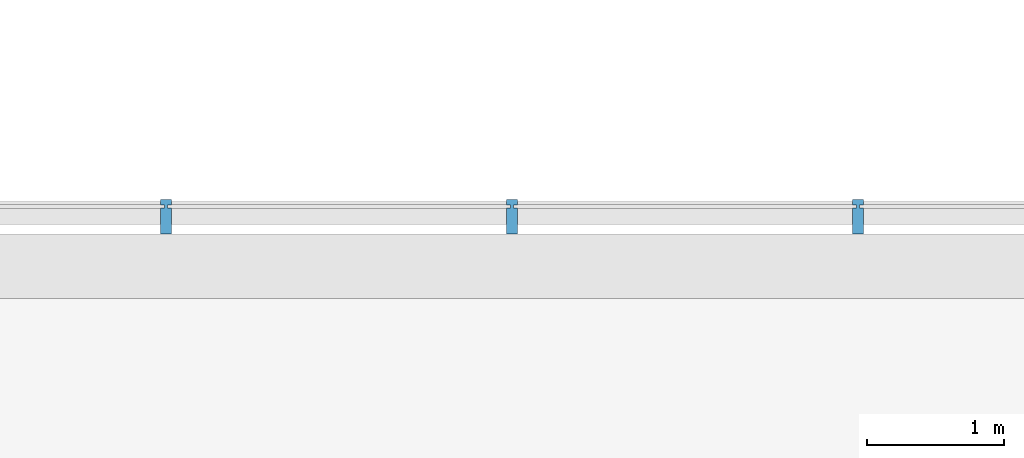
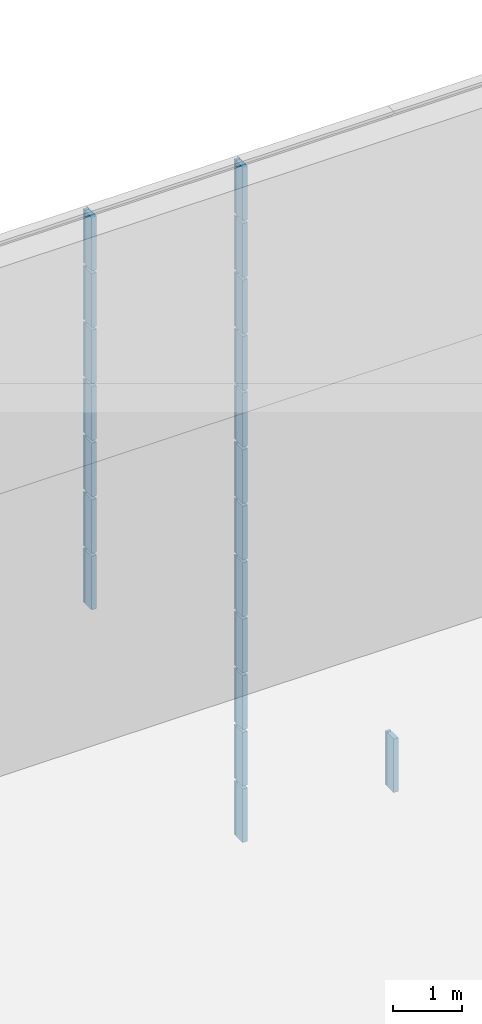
# One storey, part 87 of 105: 20 building element parts, 4 elements without a shape of their own.
"""IFC4 building model written with IfcOpenShell, lengths in millimetres."""

from ifc_helpers import new_model, entity, si_unit, converted_unit, derived_unit, direction, frame, origin_with_axes, place, context, subcontext, project, spatial, triangles, material, element, aggregate, save


model = new_model("IFC4")

# Units and contexts
model_context = context("Model", 3, precision=1e-05, world=origin_with_axes(), true_north=direction((0.0, 1.0)))
body_context = subcontext(model_context, "Body", "Model", "MODEL_VIEW")
ifc_project = project(units=[si_unit("LENGTHUNIT", "METRE", prefix="MILLI"), si_unit("AREAUNIT", "SQUARE_METRE"), si_unit("VOLUMEUNIT", "CUBIC_METRE"), converted_unit("PLANEANGLEUNIT", "DEGREE", entity("IfcLengthMeasure", 0.017453), si_unit("PLANEANGLEUNIT", "RADIAN"), dimensions=[0, 0, 0, 0, 0, 0, 0]), si_unit("SOLIDANGLEUNIT", "STERADIAN"), si_unit("MASSUNIT", "GRAM"), si_unit("TIMEUNIT", "SECOND"), si_unit("THERMODYNAMICTEMPERATUREUNIT", "DEGREE_CELSIUS"), si_unit("LUMINOUSINTENSITYUNIT", "LUMEN"), si_unit("POWERUNIT", "WATT"), derived_unit("THERMALTRANSMITTANCEUNIT", [(si_unit("POWERUNIT", "WATT"), 1), (si_unit("THERMODYNAMICTEMPERATUREUNIT", "KELVIN"), -1), (si_unit("AREAUNIT", "SQUARE_METRE"), -1)])], contexts=[model_context])

# Site, building, storey
site_placement = place(None, origin_with_axes())
site = spatial("IfcSite", under=ifc_project, at=site_placement, Name="Default Site", CompositionType="ELEMENT")
building_placement = place(site_placement, origin_with_axes())
building = spatial("IfcBuilding", under=site, at=building_placement, Name="Default Building", CompositionType="ELEMENT")
storey_placement = place(building_placement, origin_with_axes())
storey = spatial("IfcBuildingStorey", under=building, at=storey_placement, Name="OG - Story", CompositionType="ELEMENT", Elevation=0.0)

# Curtain wall, building element parts
curtain_wall_1_placement = place(storey_placement, origin_with_axes())
curtain_wall_1 = element("IfcCurtainWall", 1, at=curtain_wall_1_placement, inside=storey, Name="Fassade-004", PredefinedType="NOTDEFINED")
ifc_material = material(Name="Blech")
building_element_part_1_placement = place(curtain_wall_1_placement, frame((33014.549222, -4389.262838, 0.0), z_axis=(0.0, 0.0, 1.0), x_axis=(1.0, 0.0, 0.0)))
building_element_part_1 = element("IfcBuildingElementPart", 2, at=building_element_part_1_placement, material=ifc_material, Name="Blech", PredefinedType="NOTDEFINED", context=body_context, shape_type="Tessellation", body=[
    triangles([(11408.421, -9.999, 975.0), (11408.421, -199.999, 975.0), (11378.421, -9.999, 975.0), (11358.421, -9.999, 975.0), (11378.421, 10.0, 975.0), (11408.421, 50.0, 975.0), (11408.421, 10.0, 975.0), (11328.421, -199.999, 975.0), (11328.421, -9.999, 975.0), (11358.421, 10.0, 975.0), (11328.421, 10.0, 975.0), (11328.421, 50.0, 975.0), (11378.421, -9.999, 25.0), (11378.421, 10.0, 25.0), (11408.421, 10.0, 25.0), (11408.421, 50.0, 25.0), (11328.421, 50.0, 25.0), (11328.421, 10.0, 25.0), (11358.421, 10.0, 25.0), (11358.421, -9.999, 25.0), (11328.421, -9.999, 25.0), (11328.421, -199.999, 25.0), (11408.421, -199.999, 25.0), (11408.421, -9.999, 25.0)], [[1, 2, 3], [3, 2, 4], [3, 4, 5], [5, 4, 6], [5, 6, 7], [8, 9, 4], [8, 4, 2], [6, 4, 10], [6, 10, 11], [6, 11, 12], [3, 13, 14], [3, 14, 5], [5, 14, 15], [5, 15, 7], [15, 16, 6], [15, 6, 7], [12, 6, 16], [12, 16, 17], [18, 11, 12], [18, 12, 17], [11, 18, 19], [11, 19, 10], [4, 10, 19], [4, 19, 20], [9, 4, 20], [9, 20, 21], [9, 21, 22], [9, 22, 8], [2, 8, 22], [2, 22, 23], [1, 2, 23], [1, 23, 24], [1, 24, 13], [1, 13, 3], [15, 16, 14], [14, 16, 19], [14, 19, 13], [13, 19, 23], [13, 23, 24], [17, 18, 19], [17, 19, 16], [23, 19, 20], [23, 20, 21], [23, 21, 22]], closed=False),
])
building_element_part_2_placement = place(curtain_wall_1_placement, frame((33014.549222, -4389.262838, 0.0), z_axis=(0.0, 0.0, 1.0), x_axis=(1.0, 0.0, 0.0)))
building_element_part_2 = element("IfcBuildingElementPart", 3, at=building_element_part_2_placement, material=ifc_material, Name="Blech", PredefinedType="NOTDEFINED", context=body_context, shape_type="Tessellation", body=[
    triangles([(13934.737, -9.999, 975.0), (13934.737, -199.999, 975.0), (13904.737, -9.999, 975.0), (13884.737, -9.999, 975.0), (13904.737, 10.0, 975.0), (13934.737, 50.0, 975.0), (13934.737, 10.0, 975.0), (13854.737, -199.999, 975.0), (13854.737, -9.999, 975.0), (13884.737, 10.0, 975.0), (13854.737, 10.0, 975.0), (13854.737, 50.0, 975.0), (13904.737, -9.999, 25.0), (13904.737, 10.0, 25.0), (13934.737, 10.0, 25.0), (13934.737, 50.0, 25.0), (13854.737, 50.0, 25.0), (13854.737, 10.0, 25.0), (13884.737, 10.0, 25.0), (13884.737, -9.999, 25.0), (13854.737, -9.999, 25.0), (13854.737, -199.999, 25.0), (13934.737, -199.999, 25.0), (13934.737, -9.999, 25.0)], [[1, 2, 3], [3, 2, 4], [3, 4, 5], [5, 4, 6], [5, 6, 7], [8, 9, 4], [8, 4, 2], [6, 4, 10], [6, 10, 11], [6, 11, 12], [3, 13, 14], [3, 14, 5], [5, 14, 15], [5, 15, 7], [15, 16, 6], [15, 6, 7], [12, 6, 16], [12, 16, 17], [18, 11, 12], [18, 12, 17], [11, 18, 19], [11, 19, 10], [4, 10, 19], [4, 19, 20], [9, 4, 20], [9, 20, 21], [9, 21, 22], [9, 22, 8], [2, 8, 22], [2, 22, 23], [1, 2, 23], [1, 23, 24], [1, 24, 13], [1, 13, 3], [15, 16, 14], [14, 16, 19], [14, 19, 13], [13, 19, 23], [13, 23, 24], [17, 18, 19], [17, 19, 16], [23, 19, 20], [23, 20, 21], [23, 21, 22]], closed=False),
])
building_element_part_3_placement = place(curtain_wall_1_placement, frame((33014.549222, -4389.262838, 0.0), z_axis=(0.0, 0.0, 1.0), x_axis=(1.0, 0.0, 0.0)))
building_element_part_3 = element("IfcBuildingElementPart", 4, at=building_element_part_3_placement, material=ifc_material, Name="Blech", PredefinedType="NOTDEFINED", context=body_context, shape_type="Tessellation", body=[
    triangles([(11408.421, -9.999, 1975.0), (11408.421, -199.999, 1975.0), (11378.421, -9.999, 1975.0), (11358.421, -9.999, 1975.0), (11378.421, 10.0, 1975.0), (11408.421, 50.0, 1975.0), (11408.421, 10.0, 1975.0), (11328.421, -199.999, 1975.0), (11328.421, -9.999, 1975.0), (11358.421, 10.0, 1975.0), (11328.421, 10.0, 1975.0), (11328.421, 50.0, 1975.0), (11378.421, -9.999, 1025.0), (11378.421, 10.0, 1025.0), (11408.421, 10.0, 1025.0), (11408.421, 50.0, 1025.0), (11328.421, 50.0, 1025.0), (11328.421, 10.0, 1025.0), (11358.421, 10.0, 1025.0), (11358.421, -9.999, 1025.0), (11328.421, -9.999, 1025.0), (11328.421, -199.999, 1025.0), (11408.421, -199.999, 1025.0), (11408.421, -9.999, 1025.0)], [[1, 2, 3], [3, 2, 4], [3, 4, 5], [5, 4, 6], [5, 6, 7], [8, 9, 4], [8, 4, 2], [6, 4, 10], [6, 10, 11], [6, 11, 12], [3, 13, 14], [3, 14, 5], [5, 14, 15], [5, 15, 7], [15, 16, 6], [15, 6, 7], [12, 6, 16], [12, 16, 17], [18, 11, 12], [18, 12, 17], [11, 18, 19], [11, 19, 10], [4, 10, 19], [4, 19, 20], [9, 4, 20], [9, 20, 21], [9, 21, 22], [9, 22, 8], [2, 8, 22], [2, 22, 23], [1, 2, 23], [1, 23, 24], [1, 24, 13], [1, 13, 3], [15, 16, 14], [14, 16, 19], [14, 19, 13], [13, 19, 23], [13, 23, 24], [17, 18, 19], [17, 19, 16], [23, 19, 20], [23, 20, 21], [23, 21, 22]], closed=False),
])
building_element_part_4_placement = place(curtain_wall_1_placement, frame((33014.549222, -4389.262838, 0.0), z_axis=(0.0, 0.0, 1.0), x_axis=(1.0, 0.0, 0.0)))
building_element_part_4 = element("IfcBuildingElementPart", 5, at=building_element_part_4_placement, material=ifc_material, Name="Blech", PredefinedType="NOTDEFINED", context=body_context, shape_type="Tessellation", body=[
    triangles([(11408.421, -9.999, 2975.0), (11408.421, -199.999, 2975.0), (11378.421, -9.999, 2975.0), (11358.421, -9.999, 2975.0), (11378.421, 10.0, 2975.0), (11408.421, 50.0, 2975.0), (11408.421, 10.0, 2975.0), (11328.421, -199.999, 2975.0), (11328.421, -9.999, 2975.0), (11358.421, 10.0, 2975.0), (11328.421, 10.0, 2975.0), (11328.421, 50.0, 2975.0), (11378.421, -9.999, 2025.0), (11378.421, 10.0, 2025.0), (11408.421, 10.0, 2025.0), (11408.421, 50.0, 2025.0), (11328.421, 50.0, 2025.0), (11328.421, 10.0, 2025.0), (11358.421, 10.0, 2025.0), (11358.421, -9.999, 2025.0), (11328.421, -9.999, 2025.0), (11328.421, -199.999, 2025.0), (11408.421, -199.999, 2025.0), (11408.421, -9.999, 2025.0)], [[1, 2, 3], [3, 2, 4], [3, 4, 5], [5, 4, 6], [5, 6, 7], [8, 9, 4], [8, 4, 2], [6, 4, 10], [6, 10, 11], [6, 11, 12], [3, 13, 14], [3, 14, 5], [5, 14, 15], [5, 15, 7], [15, 16, 6], [15, 6, 7], [12, 6, 16], [12, 16, 17], [18, 11, 12], [18, 12, 17], [11, 18, 19], [11, 19, 10], [4, 10, 19], [4, 19, 20], [9, 4, 20], [9, 20, 21], [9, 21, 22], [9, 22, 8], [2, 8, 22], [2, 22, 23], [1, 2, 23], [1, 23, 24], [1, 24, 13], [1, 13, 3], [15, 16, 14], [14, 16, 19], [14, 19, 13], [13, 19, 23], [13, 23, 24], [17, 18, 19], [17, 19, 16], [23, 19, 20], [23, 20, 21], [23, 21, 22]], closed=False),
])
aggregate(curtain_wall_1, [building_element_part_1, building_element_part_2, building_element_part_3, building_element_part_4])

curtain_wall_2_placement = place(storey_placement, origin_with_axes())
curtain_wall_2 = element("IfcCurtainWall", 6, at=curtain_wall_2_placement, inside=storey, Name="Fassade-004", PredefinedType="NOTDEFINED")
building_element_part_5_placement = place(curtain_wall_2_placement, frame((33014.549222, -4389.262838, 3000.0), z_axis=(0.0, 0.0, 1.0), x_axis=(1.0, 0.0, 0.0)))
building_element_part_5 = element("IfcBuildingElementPart", 7, at=building_element_part_5_placement, material=ifc_material, Name="Blech", PredefinedType="NOTDEFINED", context=body_context, shape_type="Tessellation", body=[
    triangles([(11408.421, -9.999, 975.0), (11408.421, -199.999, 975.0), (11378.421, -9.999, 975.0), (11358.421, -9.999, 975.0), (11378.421, 10.0, 975.0), (11408.421, 50.0, 975.0), (11408.421, 10.0, 975.0), (11328.421, -199.999, 975.0), (11328.421, -9.999, 975.0), (11358.421, 10.0, 975.0), (11328.421, 10.0, 975.0), (11328.421, 50.0, 975.0), (11378.421, -9.999, 25.0), (11378.421, 10.0, 25.0), (11408.421, 10.0, 25.0), (11408.421, 50.0, 25.0), (11328.421, 50.0, 25.0), (11328.421, 10.0, 25.0), (11358.421, 10.0, 25.0), (11358.421, -9.999, 25.0), (11328.421, -9.999, 25.0), (11328.421, -199.999, 25.0), (11408.421, -199.999, 25.0), (11408.421, -9.999, 25.0)], [[1, 2, 3], [3, 2, 4], [3, 4, 5], [5, 4, 6], [5, 6, 7], [8, 9, 4], [8, 4, 2], [6, 4, 10], [6, 10, 11], [6, 11, 12], [3, 13, 14], [3, 14, 5], [5, 14, 15], [5, 15, 7], [15, 16, 6], [15, 6, 7], [12, 6, 16], [12, 16, 17], [18, 11, 12], [18, 12, 17], [11, 18, 19], [11, 19, 10], [4, 10, 19], [4, 19, 20], [9, 4, 20], [9, 20, 21], [9, 21, 22], [9, 22, 8], [2, 8, 22], [2, 22, 23], [1, 2, 23], [1, 23, 24], [1, 24, 13], [1, 13, 3], [15, 16, 14], [14, 16, 19], [14, 19, 13], [13, 19, 23], [13, 23, 24], [17, 18, 19], [17, 19, 16], [23, 19, 20], [23, 20, 21], [23, 21, 22]], closed=False),
])
building_element_part_6_placement = place(curtain_wall_2_placement, frame((33014.549222, -4389.262838, 3000.0), z_axis=(0.0, 0.0, 1.0), x_axis=(1.0, 0.0, 0.0)))
building_element_part_6 = element("IfcBuildingElementPart", 8, at=building_element_part_6_placement, material=ifc_material, Name="Blech", PredefinedType="NOTDEFINED", context=body_context, shape_type="Tessellation", body=[
    triangles([(11408.421, -9.999, 1975.0), (11408.421, -199.999, 1975.0), (11378.421, -9.999, 1975.0), (11358.421, -9.999, 1975.0), (11378.421, 10.0, 1975.0), (11408.421, 50.0, 1975.0), (11408.421, 10.0, 1975.0), (11328.421, -199.999, 1975.0), (11328.421, -9.999, 1975.0), (11358.421, 10.0, 1975.0), (11328.421, 10.0, 1975.0), (11328.421, 50.0, 1975.0), (11378.421, -9.999, 1025.0), (11378.421, 10.0, 1025.0), (11408.421, 10.0, 1025.0), (11408.421, 50.0, 1025.0), (11328.421, 50.0, 1025.0), (11328.421, 10.0, 1025.0), (11358.421, 10.0, 1025.0), (11358.421, -9.999, 1025.0), (11328.421, -9.999, 1025.0), (11328.421, -199.999, 1025.0), (11408.421, -199.999, 1025.0), (11408.421, -9.999, 1025.0)], [[1, 2, 3], [3, 2, 4], [3, 4, 5], [5, 4, 6], [5, 6, 7], [8, 9, 4], [8, 4, 2], [6, 4, 10], [6, 10, 11], [6, 11, 12], [3, 13, 14], [3, 14, 5], [5, 14, 15], [5, 15, 7], [15, 16, 6], [15, 6, 7], [12, 6, 16], [12, 16, 17], [18, 11, 12], [18, 12, 17], [11, 18, 19], [11, 19, 10], [4, 10, 19], [4, 19, 20], [9, 4, 20], [9, 20, 21], [9, 21, 22], [9, 22, 8], [2, 8, 22], [2, 22, 23], [1, 2, 23], [1, 23, 24], [1, 24, 13], [1, 13, 3], [15, 16, 14], [14, 16, 19], [14, 19, 13], [13, 19, 23], [13, 23, 24], [17, 18, 19], [17, 19, 16], [23, 19, 20], [23, 20, 21], [23, 21, 22]], closed=False),
])
building_element_part_7_placement = place(curtain_wall_2_placement, frame((33014.549222, -4389.262838, 3000.0), z_axis=(0.0, 0.0, 1.0), x_axis=(1.0, 0.0, 0.0)))
building_element_part_7 = element("IfcBuildingElementPart", 9, at=building_element_part_7_placement, material=ifc_material, Name="Blech", PredefinedType="NOTDEFINED", context=body_context, shape_type="Tessellation", body=[
    triangles([(8882.105, -9.999, 2975.0), (8882.105, -199.999, 2975.0), (8852.105, -9.999, 2975.0), (8832.105, -9.999, 2975.0), (8852.105, 10.0, 2975.0), (8882.105, 50.0, 2975.0), (8882.105, 10.0, 2975.0), (8802.105, -199.999, 2975.0), (8802.105, -9.999, 2975.0), (8832.105, 10.0, 2975.0), (8802.105, 10.0, 2975.0), (8802.105, 50.0, 2975.0), (8852.105, -9.999, 2025.0), (8852.105, 10.0, 2025.0), (8882.105, 10.0, 2025.0), (8882.105, 50.0, 2025.0), (8802.105, 50.0, 2025.0), (8802.105, 10.0, 2025.0), (8832.105, 10.0, 2025.0), (8832.105, -9.999, 2025.0), (8802.105, -9.999, 2025.0), (8802.105, -199.999, 2025.0), (8882.105, -199.999, 2025.0), (8882.105, -9.999, 2025.0)], [[1, 2, 3], [3, 2, 4], [3, 4, 5], [5, 4, 6], [5, 6, 7], [8, 9, 4], [8, 4, 2], [6, 4, 10], [6, 10, 11], [6, 11, 12], [3, 13, 14], [3, 14, 5], [5, 14, 15], [5, 15, 7], [15, 16, 6], [15, 6, 7], [12, 6, 16], [12, 16, 17], [18, 11, 12], [18, 12, 17], [11, 18, 19], [11, 19, 10], [4, 10, 19], [4, 19, 20], [9, 4, 20], [9, 20, 21], [9, 21, 22], [9, 22, 8], [2, 8, 22], [2, 22, 23], [1, 2, 23], [1, 23, 24], [1, 24, 13], [1, 13, 3], [15, 16, 14], [14, 16, 19], [14, 19, 13], [13, 19, 23], [13, 23, 24], [17, 18, 19], [17, 19, 16], [23, 19, 20], [23, 20, 21], [23, 21, 22]], closed=False),
])
building_element_part_8_placement = place(curtain_wall_2_placement, frame((33014.549222, -4389.262838, 3000.0), z_axis=(0.0, 0.0, 1.0), x_axis=(1.0, 0.0, 0.0)))
building_element_part_8 = element("IfcBuildingElementPart", 10, at=building_element_part_8_placement, material=ifc_material, Name="Blech", PredefinedType="NOTDEFINED", context=body_context, shape_type="Tessellation", body=[
    triangles([(11408.421, -9.999, 2975.0), (11408.421, -199.999, 2975.0), (11378.421, -9.999, 2975.0), (11358.421, -9.999, 2975.0), (11378.421, 10.0, 2975.0), (11408.421, 50.0, 2975.0), (11408.421, 10.0, 2975.0), (11328.421, -199.999, 2975.0), (11328.421, -9.999, 2975.0), (11358.421, 10.0, 2975.0), (11328.421, 10.0, 2975.0), (11328.421, 50.0, 2975.0), (11378.421, -9.999, 2025.0), (11378.421, 10.0, 2025.0), (11408.421, 10.0, 2025.0), (11408.421, 50.0, 2025.0), (11328.421, 50.0, 2025.0), (11328.421, 10.0, 2025.0), (11358.421, 10.0, 2025.0), (11358.421, -9.999, 2025.0), (11328.421, -9.999, 2025.0), (11328.421, -199.999, 2025.0), (11408.421, -199.999, 2025.0), (11408.421, -9.999, 2025.0)], [[1, 2, 3], [3, 2, 4], [3, 4, 5], [5, 4, 6], [5, 6, 7], [8, 9, 4], [8, 4, 2], [6, 4, 10], [6, 10, 11], [6, 11, 12], [3, 13, 14], [3, 14, 5], [5, 14, 15], [5, 15, 7], [15, 16, 6], [15, 6, 7], [12, 6, 16], [12, 16, 17], [18, 11, 12], [18, 12, 17], [11, 18, 19], [11, 19, 10], [4, 10, 19], [4, 19, 20], [9, 4, 20], [9, 20, 21], [9, 21, 22], [9, 22, 8], [2, 8, 22], [2, 22, 23], [1, 2, 23], [1, 23, 24], [1, 24, 13], [1, 13, 3], [15, 16, 14], [14, 16, 19], [14, 19, 13], [13, 19, 23], [13, 23, 24], [17, 18, 19], [17, 19, 16], [23, 19, 20], [23, 20, 21], [23, 21, 22]], closed=False),
])
aggregate(curtain_wall_2, [building_element_part_5, building_element_part_6, building_element_part_7, building_element_part_8])

curtain_wall_3_placement = place(storey_placement, origin_with_axes())
curtain_wall_3 = element("IfcCurtainWall", 11, at=curtain_wall_3_placement, inside=storey, Name="Fassade-004", PredefinedType="NOTDEFINED")
building_element_part_9_placement = place(curtain_wall_3_placement, frame((33014.549222, -4389.262838, 6000.0), z_axis=(0.0, 0.0, 1.0), x_axis=(1.0, 0.0, 0.0)))
building_element_part_9 = element("IfcBuildingElementPart", 12, at=building_element_part_9_placement, material=ifc_material, Name="Blech", PredefinedType="NOTDEFINED", context=body_context, shape_type="Tessellation", body=[
    triangles([(8882.105, -9.999, 975.0), (8882.105, -199.999, 975.0), (8852.105, -9.999, 975.0), (8832.105, -9.999, 975.0), (8852.105, 10.0, 975.0), (8882.105, 50.0, 975.0), (8882.105, 10.0, 975.0), (8802.105, -199.999, 975.0), (8802.105, -9.999, 975.0), (8832.105, 10.0, 975.0), (8802.105, 10.0, 975.0), (8802.105, 50.0, 975.0), (8852.105, -9.999, 25.0), (8852.105, 10.0, 25.0), (8882.105, 10.0, 25.0), (8882.105, 50.0, 25.0), (8802.105, 50.0, 25.0), (8802.105, 10.0, 25.0), (8832.105, 10.0, 25.0), (8832.105, -9.999, 25.0), (8802.105, -9.999, 25.0), (8802.105, -199.999, 25.0), (8882.105, -199.999, 25.0), (8882.105, -9.999, 25.0)], [[1, 2, 3], [3, 2, 4], [3, 4, 5], [5, 4, 6], [5, 6, 7], [8, 9, 4], [8, 4, 2], [6, 4, 10], [6, 10, 11], [6, 11, 12], [3, 13, 14], [3, 14, 5], [5, 14, 15], [5, 15, 7], [15, 16, 6], [15, 6, 7], [12, 6, 16], [12, 16, 17], [18, 11, 12], [18, 12, 17], [11, 18, 19], [11, 19, 10], [4, 10, 19], [4, 19, 20], [9, 4, 20], [9, 20, 21], [9, 21, 22], [9, 22, 8], [2, 8, 22], [2, 22, 23], [1, 2, 23], [1, 23, 24], [1, 24, 13], [1, 13, 3], [15, 16, 14], [14, 16, 19], [14, 19, 13], [13, 19, 23], [13, 23, 24], [17, 18, 19], [17, 19, 16], [23, 19, 20], [23, 20, 21], [23, 21, 22]], closed=False),
])
building_element_part_10_placement = place(curtain_wall_3_placement, frame((33014.549222, -4389.262838, 6000.0), z_axis=(0.0, 0.0, 1.0), x_axis=(1.0, 0.0, 0.0)))
building_element_part_10 = element("IfcBuildingElementPart", 13, at=building_element_part_10_placement, material=ifc_material, Name="Blech", PredefinedType="NOTDEFINED", context=body_context, shape_type="Tessellation", body=[
    triangles([(11408.421, -9.999, 975.0), (11408.421, -199.999, 975.0), (11378.421, -9.999, 975.0), (11358.421, -9.999, 975.0), (11378.421, 10.0, 975.0), (11408.421, 50.0, 975.0), (11408.421, 10.0, 975.0), (11328.421, -199.999, 975.0), (11328.421, -9.999, 975.0), (11358.421, 10.0, 975.0), (11328.421, 10.0, 975.0), (11328.421, 50.0, 975.0), (11378.421, -9.999, 25.0), (11378.421, 10.0, 25.0), (11408.421, 10.0, 25.0), (11408.421, 50.0, 25.0), (11328.421, 50.0, 25.0), (11328.421, 10.0, 25.0), (11358.421, 10.0, 25.0), (11358.421, -9.999, 25.0), (11328.421, -9.999, 25.0), (11328.421, -199.999, 25.0), (11408.421, -199.999, 25.0), (11408.421, -9.999, 25.0)], [[1, 2, 3], [3, 2, 4], [3, 4, 5], [5, 4, 6], [5, 6, 7], [8, 9, 4], [8, 4, 2], [6, 4, 10], [6, 10, 11], [6, 11, 12], [3, 13, 14], [3, 14, 5], [5, 14, 15], [5, 15, 7], [15, 16, 6], [15, 6, 7], [12, 6, 16], [12, 16, 17], [18, 11, 12], [18, 12, 17], [11, 18, 19], [11, 19, 10], [4, 10, 19], [4, 19, 20], [9, 4, 20], [9, 20, 21], [9, 21, 22], [9, 22, 8], [2, 8, 22], [2, 22, 23], [1, 2, 23], [1, 23, 24], [1, 24, 13], [1, 13, 3], [15, 16, 14], [14, 16, 19], [14, 19, 13], [13, 19, 23], [13, 23, 24], [17, 18, 19], [17, 19, 16], [23, 19, 20], [23, 20, 21], [23, 21, 22]], closed=False),
])
building_element_part_11_placement = place(curtain_wall_3_placement, frame((33014.549222, -4389.262838, 6000.0), z_axis=(0.0, 0.0, 1.0), x_axis=(1.0, 0.0, 0.0)))
building_element_part_11 = element("IfcBuildingElementPart", 14, at=building_element_part_11_placement, material=ifc_material, Name="Blech", PredefinedType="NOTDEFINED", context=body_context, shape_type="Tessellation", body=[
    triangles([(8882.105, -9.999, 1975.0), (8882.105, -199.999, 1975.0), (8852.105, -9.999, 1975.0), (8832.105, -9.999, 1975.0), (8852.105, 10.0, 1975.0), (8882.105, 50.0, 1975.0), (8882.105, 10.0, 1975.0), (8802.105, -199.999, 1975.0), (8802.105, -9.999, 1975.0), (8832.105, 10.0, 1975.0), (8802.105, 10.0, 1975.0), (8802.105, 50.0, 1975.0), (8852.105, -9.999, 1025.0), (8852.105, 10.0, 1025.0), (8882.105, 10.0, 1025.0), (8882.105, 50.0, 1025.0), (8802.105, 50.0, 1025.0), (8802.105, 10.0, 1025.0), (8832.105, 10.0, 1025.0), (8832.105, -9.999, 1025.0), (8802.105, -9.999, 1025.0), (8802.105, -199.999, 1025.0), (8882.105, -199.999, 1025.0), (8882.105, -9.999, 1025.0)], [[1, 2, 3], [3, 2, 4], [3, 4, 5], [5, 4, 6], [5, 6, 7], [8, 9, 4], [8, 4, 2], [6, 4, 10], [6, 10, 11], [6, 11, 12], [3, 13, 14], [3, 14, 5], [5, 14, 15], [5, 15, 7], [15, 16, 6], [15, 6, 7], [12, 6, 16], [12, 16, 17], [18, 11, 12], [18, 12, 17], [11, 18, 19], [11, 19, 10], [4, 10, 19], [4, 19, 20], [9, 4, 20], [9, 20, 21], [9, 21, 22], [9, 22, 8], [2, 8, 22], [2, 22, 23], [1, 2, 23], [1, 23, 24], [1, 24, 13], [1, 13, 3], [15, 16, 14], [14, 16, 19], [14, 19, 13], [13, 19, 23], [13, 23, 24], [17, 18, 19], [17, 19, 16], [23, 19, 20], [23, 20, 21], [23, 21, 22]], closed=False),
])
building_element_part_12_placement = place(curtain_wall_3_placement, frame((33014.549222, -4389.262838, 6000.0), z_axis=(0.0, 0.0, 1.0), x_axis=(1.0, 0.0, 0.0)))
building_element_part_12 = element("IfcBuildingElementPart", 15, at=building_element_part_12_placement, material=ifc_material, Name="Blech", PredefinedType="NOTDEFINED", context=body_context, shape_type="Tessellation", body=[
    triangles([(11408.421, -9.999, 1975.0), (11408.421, -199.999, 1975.0), (11378.421, -9.999, 1975.0), (11358.421, -9.999, 1975.0), (11378.421, 10.0, 1975.0), (11408.421, 50.0, 1975.0), (11408.421, 10.0, 1975.0), (11328.421, -199.999, 1975.0), (11328.421, -9.999, 1975.0), (11358.421, 10.0, 1975.0), (11328.421, 10.0, 1975.0), (11328.421, 50.0, 1975.0), (11378.421, -9.999, 1025.0), (11378.421, 10.0, 1025.0), (11408.421, 10.0, 1025.0), (11408.421, 50.0, 1025.0), (11328.421, 50.0, 1025.0), (11328.421, 10.0, 1025.0), (11358.421, 10.0, 1025.0), (11358.421, -9.999, 1025.0), (11328.421, -9.999, 1025.0), (11328.421, -199.999, 1025.0), (11408.421, -199.999, 1025.0), (11408.421, -9.999, 1025.0)], [[1, 2, 3], [3, 2, 4], [3, 4, 5], [5, 4, 6], [5, 6, 7], [8, 9, 4], [8, 4, 2], [6, 4, 10], [6, 10, 11], [6, 11, 12], [3, 13, 14], [3, 14, 5], [5, 14, 15], [5, 15, 7], [15, 16, 6], [15, 6, 7], [12, 6, 16], [12, 16, 17], [18, 11, 12], [18, 12, 17], [11, 18, 19], [11, 19, 10], [4, 10, 19], [4, 19, 20], [9, 4, 20], [9, 20, 21], [9, 21, 22], [9, 22, 8], [2, 8, 22], [2, 22, 23], [1, 2, 23], [1, 23, 24], [1, 24, 13], [1, 13, 3], [15, 16, 14], [14, 16, 19], [14, 19, 13], [13, 19, 23], [13, 23, 24], [17, 18, 19], [17, 19, 16], [23, 19, 20], [23, 20, 21], [23, 21, 22]], closed=False),
])
building_element_part_13_placement = place(curtain_wall_3_placement, frame((33014.549222, -4389.262838, 6000.0), z_axis=(0.0, 0.0, 1.0), x_axis=(1.0, 0.0, 0.0)))
building_element_part_13 = element("IfcBuildingElementPart", 16, at=building_element_part_13_placement, material=ifc_material, Name="Blech", PredefinedType="NOTDEFINED", context=body_context, shape_type="Tessellation", body=[
    triangles([(8882.105, -9.999, 2975.0), (8882.105, -199.999, 2975.0), (8852.105, -9.999, 2975.0), (8832.105, -9.999, 2975.0), (8852.105, 10.0, 2975.0), (8882.105, 50.0, 2975.0), (8882.105, 10.0, 2975.0), (8802.105, -199.999, 2975.0), (8802.105, -9.999, 2975.0), (8832.105, 10.0, 2975.0), (8802.105, 10.0, 2975.0), (8802.105, 50.0, 2975.0), (8852.105, -9.999, 2025.0), (8852.105, 10.0, 2025.0), (8882.105, 10.0, 2025.0), (8882.105, 50.0, 2025.0), (8802.105, 50.0, 2025.0), (8802.105, 10.0, 2025.0), (8832.105, 10.0, 2025.0), (8832.105, -9.999, 2025.0), (8802.105, -9.999, 2025.0), (8802.105, -199.999, 2025.0), (8882.105, -199.999, 2025.0), (8882.105, -9.999, 2025.0)], [[1, 2, 3], [3, 2, 4], [3, 4, 5], [5, 4, 6], [5, 6, 7], [8, 9, 4], [8, 4, 2], [6, 4, 10], [6, 10, 11], [6, 11, 12], [3, 13, 14], [3, 14, 5], [5, 14, 15], [5, 15, 7], [15, 16, 6], [15, 6, 7], [12, 6, 16], [12, 16, 17], [18, 11, 12], [18, 12, 17], [11, 18, 19], [11, 19, 10], [4, 10, 19], [4, 19, 20], [9, 4, 20], [9, 20, 21], [9, 21, 22], [9, 22, 8], [2, 8, 22], [2, 22, 23], [1, 2, 23], [1, 23, 24], [1, 24, 13], [1, 13, 3], [15, 16, 14], [14, 16, 19], [14, 19, 13], [13, 19, 23], [13, 23, 24], [17, 18, 19], [17, 19, 16], [23, 19, 20], [23, 20, 21], [23, 21, 22]], closed=False),
])
building_element_part_14_placement = place(curtain_wall_3_placement, frame((33014.549222, -4389.262838, 6000.0), z_axis=(0.0, 0.0, 1.0), x_axis=(1.0, 0.0, 0.0)))
building_element_part_14 = element("IfcBuildingElementPart", 17, at=building_element_part_14_placement, material=ifc_material, Name="Blech", PredefinedType="NOTDEFINED", context=body_context, shape_type="Tessellation", body=[
    triangles([(11408.421, -9.999, 2975.0), (11408.421, -199.999, 2975.0), (11378.421, -9.999, 2975.0), (11358.421, -9.999, 2975.0), (11378.421, 10.0, 2975.0), (11408.421, 50.0, 2975.0), (11408.421, 10.0, 2975.0), (11328.421, -199.999, 2975.0), (11328.421, -9.999, 2975.0), (11358.421, 10.0, 2975.0), (11328.421, 10.0, 2975.0), (11328.421, 50.0, 2975.0), (11378.421, -9.999, 2025.0), (11378.421, 10.0, 2025.0), (11408.421, 10.0, 2025.0), (11408.421, 50.0, 2025.0), (11328.421, 50.0, 2025.0), (11328.421, 10.0, 2025.0), (11358.421, 10.0, 2025.0), (11358.421, -9.999, 2025.0), (11328.421, -9.999, 2025.0), (11328.421, -199.999, 2025.0), (11408.421, -199.999, 2025.0), (11408.421, -9.999, 2025.0)], [[1, 2, 3], [3, 2, 4], [3, 4, 5], [5, 4, 6], [5, 6, 7], [8, 9, 4], [8, 4, 2], [6, 4, 10], [6, 10, 11], [6, 11, 12], [3, 13, 14], [3, 14, 5], [5, 14, 15], [5, 15, 7], [15, 16, 6], [15, 6, 7], [12, 6, 16], [12, 16, 17], [18, 11, 12], [18, 12, 17], [11, 18, 19], [11, 19, 10], [4, 10, 19], [4, 19, 20], [9, 4, 20], [9, 20, 21], [9, 21, 22], [9, 22, 8], [2, 8, 22], [2, 22, 23], [1, 2, 23], [1, 23, 24], [1, 24, 13], [1, 13, 3], [15, 16, 14], [14, 16, 19], [14, 19, 13], [13, 19, 23], [13, 23, 24], [17, 18, 19], [17, 19, 16], [23, 19, 20], [23, 20, 21], [23, 21, 22]], closed=False),
])
aggregate(curtain_wall_3, [building_element_part_9, building_element_part_10, building_element_part_11, building_element_part_12, building_element_part_13, building_element_part_14])

curtain_wall_4_placement = place(storey_placement, origin_with_axes())
curtain_wall_4 = element("IfcCurtainWall", 18, at=curtain_wall_4_placement, inside=storey, Name="Fassade-004", PredefinedType="NOTDEFINED")
building_element_part_15_placement = place(curtain_wall_4_placement, frame((33014.549222, -4389.262838, 9000.0), z_axis=(0.0, 0.0, 1.0), x_axis=(1.0, 0.0, 0.0)))
building_element_part_15 = element("IfcBuildingElementPart", 19, at=building_element_part_15_placement, material=ifc_material, Name="Blech", PredefinedType="NOTDEFINED", context=body_context, shape_type="Tessellation", body=[
    triangles([(8882.105, -9.999, 975.0), (8882.105, -199.999, 975.0), (8852.105, -9.999, 975.0), (8832.105, -9.999, 975.0), (8852.105, 10.0, 975.0), (8882.105, 50.0, 975.0), (8882.105, 10.0, 975.0), (8802.105, -199.999, 975.0), (8802.105, -9.999, 975.0), (8832.105, 10.0, 975.0), (8802.105, 10.0, 975.0), (8802.105, 50.0, 975.0), (8852.105, -9.999, 25.0), (8852.105, 10.0, 25.0), (8882.105, 10.0, 25.0), (8882.105, 50.0, 25.0), (8802.105, 50.0, 25.0), (8802.105, 10.0, 25.0), (8832.105, 10.0, 25.0), (8832.105, -9.999, 25.0), (8802.105, -9.999, 25.0), (8802.105, -199.999, 25.0), (8882.105, -199.999, 25.0), (8882.105, -9.999, 25.0)], [[1, 2, 3], [3, 2, 4], [3, 4, 5], [5, 4, 6], [5, 6, 7], [8, 9, 4], [8, 4, 2], [6, 4, 10], [6, 10, 11], [6, 11, 12], [3, 13, 14], [3, 14, 5], [5, 14, 15], [5, 15, 7], [15, 16, 6], [15, 6, 7], [12, 6, 16], [12, 16, 17], [18, 11, 12], [18, 12, 17], [11, 18, 19], [11, 19, 10], [4, 10, 19], [4, 19, 20], [9, 4, 20], [9, 20, 21], [9, 21, 22], [9, 22, 8], [2, 8, 22], [2, 22, 23], [1, 2, 23], [1, 23, 24], [1, 24, 13], [1, 13, 3], [15, 16, 14], [14, 16, 19], [14, 19, 13], [13, 19, 23], [13, 23, 24], [17, 18, 19], [17, 19, 16], [23, 19, 20], [23, 20, 21], [23, 21, 22]], closed=False),
])
building_element_part_16_placement = place(curtain_wall_4_placement, frame((33014.549222, -4389.262838, 9000.0), z_axis=(0.0, 0.0, 1.0), x_axis=(1.0, 0.0, 0.0)))
building_element_part_16 = element("IfcBuildingElementPart", 20, at=building_element_part_16_placement, material=ifc_material, Name="Blech", PredefinedType="NOTDEFINED", context=body_context, shape_type="Tessellation", body=[
    triangles([(11408.421, -9.999, 975.0), (11408.421, -199.999, 975.0), (11378.421, -9.999, 975.0), (11358.421, -9.999, 975.0), (11378.421, 10.0, 975.0), (11408.421, 50.0, 975.0), (11408.421, 10.0, 975.0), (11328.421, -199.999, 975.0), (11328.421, -9.999, 975.0), (11358.421, 10.0, 975.0), (11328.421, 10.0, 975.0), (11328.421, 50.0, 975.0), (11378.421, -9.999, 25.0), (11378.421, 10.0, 25.0), (11408.421, 10.0, 25.0), (11408.421, 50.0, 25.0), (11328.421, 50.0, 25.0), (11328.421, 10.0, 25.0), (11358.421, 10.0, 25.0), (11358.421, -9.999, 25.0), (11328.421, -9.999, 25.0), (11328.421, -199.999, 25.0), (11408.421, -199.999, 25.0), (11408.421, -9.999, 25.0)], [[1, 2, 3], [3, 2, 4], [3, 4, 5], [5, 4, 6], [5, 6, 7], [8, 9, 4], [8, 4, 2], [6, 4, 10], [6, 10, 11], [6, 11, 12], [3, 13, 14], [3, 14, 5], [5, 14, 15], [5, 15, 7], [15, 16, 6], [15, 6, 7], [12, 6, 16], [12, 16, 17], [18, 11, 12], [18, 12, 17], [11, 18, 19], [11, 19, 10], [4, 10, 19], [4, 19, 20], [9, 4, 20], [9, 20, 21], [9, 21, 22], [9, 22, 8], [2, 8, 22], [2, 22, 23], [1, 2, 23], [1, 23, 24], [1, 24, 13], [1, 13, 3], [15, 16, 14], [14, 16, 19], [14, 19, 13], [13, 19, 23], [13, 23, 24], [17, 18, 19], [17, 19, 16], [23, 19, 20], [23, 20, 21], [23, 21, 22]], closed=False),
])
building_element_part_17_placement = place(curtain_wall_4_placement, frame((33014.549222, -4389.262838, 9000.0), z_axis=(0.0, 0.0, 1.0), x_axis=(1.0, 0.0, 0.0)))
building_element_part_17 = element("IfcBuildingElementPart", 21, at=building_element_part_17_placement, material=ifc_material, Name="Blech", PredefinedType="NOTDEFINED", context=body_context, shape_type="Tessellation", body=[
    triangles([(8882.105, -9.999, 1975.0), (8882.105, -199.999, 1975.0), (8852.105, -9.999, 1975.0), (8832.105, -9.999, 1975.0), (8852.105, 10.0, 1975.0), (8882.105, 50.0, 1975.0), (8882.105, 10.0, 1975.0), (8802.105, -199.999, 1975.0), (8802.105, -9.999, 1975.0), (8832.105, 10.0, 1975.0), (8802.105, 10.0, 1975.0), (8802.105, 50.0, 1975.0), (8852.105, -9.999, 1025.0), (8852.105, 10.0, 1025.0), (8882.105, 10.0, 1025.0), (8882.105, 50.0, 1025.0), (8802.105, 50.0, 1025.0), (8802.105, 10.0, 1025.0), (8832.105, 10.0, 1025.0), (8832.105, -9.999, 1025.0), (8802.105, -9.999, 1025.0), (8802.105, -199.999, 1025.0), (8882.105, -199.999, 1025.0), (8882.105, -9.999, 1025.0)], [[1, 2, 3], [3, 2, 4], [3, 4, 5], [5, 4, 6], [5, 6, 7], [8, 9, 4], [8, 4, 2], [6, 4, 10], [6, 10, 11], [6, 11, 12], [3, 13, 14], [3, 14, 5], [5, 14, 15], [5, 15, 7], [15, 16, 6], [15, 6, 7], [12, 6, 16], [12, 16, 17], [18, 11, 12], [18, 12, 17], [11, 18, 19], [11, 19, 10], [4, 10, 19], [4, 19, 20], [9, 4, 20], [9, 20, 21], [9, 21, 22], [9, 22, 8], [2, 8, 22], [2, 22, 23], [1, 2, 23], [1, 23, 24], [1, 24, 13], [1, 13, 3], [15, 16, 14], [14, 16, 19], [14, 19, 13], [13, 19, 23], [13, 23, 24], [17, 18, 19], [17, 19, 16], [23, 19, 20], [23, 20, 21], [23, 21, 22]], closed=False),
])
building_element_part_18_placement = place(curtain_wall_4_placement, frame((33014.549222, -4389.262838, 9000.0), z_axis=(0.0, 0.0, 1.0), x_axis=(1.0, 0.0, 0.0)))
building_element_part_18 = element("IfcBuildingElementPart", 22, at=building_element_part_18_placement, material=ifc_material, Name="Blech", PredefinedType="NOTDEFINED", context=body_context, shape_type="Tessellation", body=[
    triangles([(11408.421, -9.999, 1975.0), (11408.421, -199.999, 1975.0), (11378.421, -9.999, 1975.0), (11358.421, -9.999, 1975.0), (11378.421, 10.0, 1975.0), (11408.421, 50.0, 1975.0), (11408.421, 10.0, 1975.0), (11328.421, -199.999, 1975.0), (11328.421, -9.999, 1975.0), (11358.421, 10.0, 1975.0), (11328.421, 10.0, 1975.0), (11328.421, 50.0, 1975.0), (11378.421, -9.999, 1025.0), (11378.421, 10.0, 1025.0), (11408.421, 10.0, 1025.0), (11408.421, 50.0, 1025.0), (11328.421, 50.0, 1025.0), (11328.421, 10.0, 1025.0), (11358.421, 10.0, 1025.0), (11358.421, -9.999, 1025.0), (11328.421, -9.999, 1025.0), (11328.421, -199.999, 1025.0), (11408.421, -199.999, 1025.0), (11408.421, -9.999, 1025.0)], [[1, 2, 3], [3, 2, 4], [3, 4, 5], [5, 4, 6], [5, 6, 7], [8, 9, 4], [8, 4, 2], [6, 4, 10], [6, 10, 11], [6, 11, 12], [3, 13, 14], [3, 14, 5], [5, 14, 15], [5, 15, 7], [15, 16, 6], [15, 6, 7], [12, 6, 16], [12, 16, 17], [18, 11, 12], [18, 12, 17], [11, 18, 19], [11, 19, 10], [4, 10, 19], [4, 19, 20], [9, 4, 20], [9, 20, 21], [9, 21, 22], [9, 22, 8], [2, 8, 22], [2, 22, 23], [1, 2, 23], [1, 23, 24], [1, 24, 13], [1, 13, 3], [15, 16, 14], [14, 16, 19], [14, 19, 13], [13, 19, 23], [13, 23, 24], [17, 18, 19], [17, 19, 16], [23, 19, 20], [23, 20, 21], [23, 21, 22]], closed=False),
])
building_element_part_19_placement = place(curtain_wall_4_placement, frame((33014.549222, -4389.262838, 9000.0), z_axis=(0.0, 0.0, 1.0), x_axis=(1.0, 0.0, 0.0)))
building_element_part_19 = element("IfcBuildingElementPart", 23, at=building_element_part_19_placement, material=ifc_material, Name="Blech", PredefinedType="NOTDEFINED", context=body_context, shape_type="Tessellation", body=[
    triangles([(8882.105, -9.999, 2975.0), (8882.105, -199.999, 2975.0), (8852.105, -9.999, 2975.0), (8832.105, -9.999, 2975.0), (8852.105, 10.0, 2975.0), (8882.105, 50.0, 2975.0), (8882.105, 10.0, 2975.0), (8802.105, -199.999, 2975.0), (8802.105, -9.999, 2975.0), (8832.105, 10.0, 2975.0), (8802.105, 10.0, 2975.0), (8802.105, 50.0, 2975.0), (8852.105, -9.999, 2025.0), (8852.105, 10.0, 2025.0), (8882.105, 10.0, 2025.0), (8882.105, 50.0, 2025.0), (8802.105, 50.0, 2025.0), (8802.105, 10.0, 2025.0), (8832.105, 10.0, 2025.0), (8832.105, -9.999, 2025.0), (8802.105, -9.999, 2025.0), (8802.105, -199.999, 2025.0), (8882.105, -199.999, 2025.0), (8882.105, -9.999, 2025.0)], [[1, 2, 3], [3, 2, 4], [3, 4, 5], [5, 4, 6], [5, 6, 7], [8, 9, 4], [8, 4, 2], [6, 4, 10], [6, 10, 11], [6, 11, 12], [3, 13, 14], [3, 14, 5], [5, 14, 15], [5, 15, 7], [15, 16, 6], [15, 6, 7], [12, 6, 16], [12, 16, 17], [18, 11, 12], [18, 12, 17], [11, 18, 19], [11, 19, 10], [4, 10, 19], [4, 19, 20], [9, 4, 20], [9, 20, 21], [9, 21, 22], [9, 22, 8], [2, 8, 22], [2, 22, 23], [1, 2, 23], [1, 23, 24], [1, 24, 13], [1, 13, 3], [15, 16, 14], [14, 16, 19], [14, 19, 13], [13, 19, 23], [13, 23, 24], [17, 18, 19], [17, 19, 16], [23, 19, 20], [23, 20, 21], [23, 21, 22]], closed=False),
])
building_element_part_20_placement = place(curtain_wall_4_placement, frame((33014.549222, -4389.262838, 9000.0), z_axis=(0.0, 0.0, 1.0), x_axis=(1.0, 0.0, 0.0)))
building_element_part_20 = element("IfcBuildingElementPart", 24, at=building_element_part_20_placement, material=ifc_material, Name="Blech", PredefinedType="NOTDEFINED", context=body_context, shape_type="Tessellation", body=[
    triangles([(11408.421, -9.999, 2975.0), (11408.421, -199.999, 2975.0), (11378.421, -9.999, 2975.0), (11358.421, -9.999, 2975.0), (11378.421, 10.0, 2975.0), (11408.421, 50.0, 2975.0), (11408.421, 10.0, 2975.0), (11328.421, -199.999, 2975.0), (11328.421, -9.999, 2975.0), (11358.421, 10.0, 2975.0), (11328.421, 10.0, 2975.0), (11328.421, 50.0, 2975.0), (11378.421, -9.999, 2025.0), (11378.421, 10.0, 2025.0), (11408.421, 10.0, 2025.0), (11408.421, 50.0, 2025.0), (11328.421, 50.0, 2025.0), (11328.421, 10.0, 2025.0), (11358.421, 10.0, 2025.0), (11358.421, -9.999, 2025.0), (11328.421, -9.999, 2025.0), (11328.421, -199.999, 2025.0), (11408.421, -199.999, 2025.0), (11408.421, -9.999, 2025.0)], [[1, 2, 3], [3, 2, 4], [3, 4, 5], [5, 4, 6], [5, 6, 7], [8, 9, 4], [8, 4, 2], [6, 4, 10], [6, 10, 11], [6, 11, 12], [3, 13, 14], [3, 14, 5], [5, 14, 15], [5, 15, 7], [15, 16, 6], [15, 6, 7], [12, 6, 16], [12, 16, 17], [18, 11, 12], [18, 12, 17], [11, 18, 19], [11, 19, 10], [4, 10, 19], [4, 19, 20], [9, 4, 20], [9, 20, 21], [9, 21, 22], [9, 22, 8], [2, 8, 22], [2, 22, 23], [1, 2, 23], [1, 23, 24], [1, 24, 13], [1, 13, 3], [15, 16, 14], [14, 16, 19], [14, 19, 13], [13, 19, 23], [13, 23, 24], [17, 18, 19], [17, 19, 16], [23, 19, 20], [23, 20, 21], [23, 21, 22]], closed=False),
])
aggregate(curtain_wall_4, [building_element_part_15, building_element_part_16, building_element_part_17, building_element_part_18, building_element_part_19, building_element_part_20])

save(model, "model.ifc")
